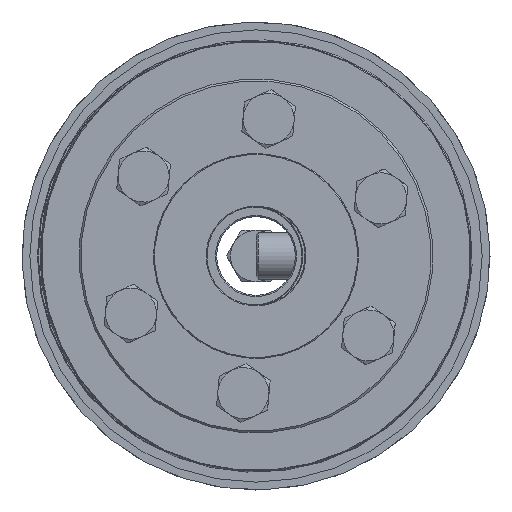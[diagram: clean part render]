
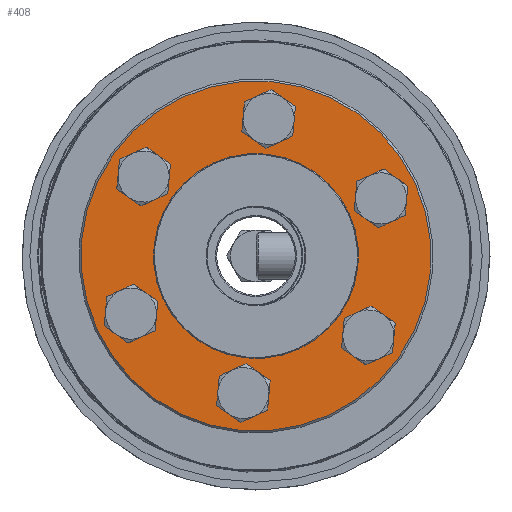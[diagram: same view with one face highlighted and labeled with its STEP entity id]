
A CAD part, left-side view. The second image highlights one B-rep face of the part: STEP entity #408.
In plain terms, the highlighted planar face has unit normal (-1, 0, 0).
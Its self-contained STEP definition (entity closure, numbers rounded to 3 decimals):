
#408 = ADVANCED_FACE( 'NONE', ( #624, #625, #626, #627, #628, #629, #630, #631 ), #632, .F. );
#624 = FACE_OUTER_BOUND( '', #1103, .T. );
#625 = FACE_BOUND( '', #1104, .T. );
#626 = FACE_BOUND( '', #1105, .T. );
#627 = FACE_BOUND( '', #1106, .T. );
#628 = FACE_BOUND( '', #1107, .T. );
#629 = FACE_BOUND( '', #1108, .T. );
#630 = FACE_BOUND( '', #1109, .T. );
#631 = FACE_BOUND( '', #1110, .T. );
#632 = PLANE( '', #1111 );
#1103 = EDGE_LOOP( '', ( #1672 ) );
#1104 = EDGE_LOOP( '', ( #1673 ) );
#1105 = EDGE_LOOP( '', ( #1674 ) );
#1106 = EDGE_LOOP( '', ( #1675 ) );
#1107 = EDGE_LOOP( '', ( #1676 ) );
#1108 = EDGE_LOOP( '', ( #1677 ) );
#1109 = EDGE_LOOP( '', ( #1678 ) );
#1110 = EDGE_LOOP( '', ( #1679 ) );
#1111 = AXIS2_PLACEMENT_3D( '', #1680, #1681, #1682 );
#1672 = ORIENTED_EDGE( '', *, *, #2489, .T. );
#1673 = ORIENTED_EDGE( '', *, *, #2490, .T. );
#1674 = ORIENTED_EDGE( '', *, *, #2491, .T. );
#1675 = ORIENTED_EDGE( '', *, *, #2492, .T. );
#1676 = ORIENTED_EDGE( '', *, *, #2493, .T. );
#1677 = ORIENTED_EDGE( '', *, *, #2485, .T. );
#1678 = ORIENTED_EDGE( '', *, *, #2494, .T. );
#1679 = ORIENTED_EDGE( '', *, *, #2495, .F. );
#1680 = CARTESIAN_POINT( '', ( 0., 26., 0. ) );
#1681 = DIRECTION( '', ( 1., 0., 0. ) );
#1682 = DIRECTION( '', ( 0., 1., 0. ) );
#2485 = EDGE_CURVE( 'NONE', #2736, #2736, #2737, .T. );
#2489 = EDGE_CURVE( 'NONE', #2744, #2744, #2745, .T. );
#2490 = EDGE_CURVE( 'NONE', #2746, #2746, #2747, .T. );
#2491 = EDGE_CURVE( 'NONE', #2748, #2748, #2749, .T. );
#2492 = EDGE_CURVE( 'NONE', #2750, #2750, #2751, .T. );
#2493 = EDGE_CURVE( 'NONE', #2752, #2752, #2753, .T. );
#2494 = EDGE_CURVE( 'NONE', #2754, #2754, #2755, .T. );
#2495 = EDGE_CURVE( 'NONE', #2756, #2756, #2757, .T. );
#2736 = VERTEX_POINT( '', #3182 );
#2737 = CIRCLE( '', #3183, 4.5 );
#2744 = VERTEX_POINT( '', #3190 );
#2745 = CIRCLE( '', #3191, 44.5 );
#2746 = VERTEX_POINT( '', #3192 );
#2747 = CIRCLE( '', #3193, 4.5 );
#2748 = VERTEX_POINT( '', #3194 );
#2749 = CIRCLE( '', #3195, 4.5 );
#2750 = VERTEX_POINT( '', #3196 );
#2751 = CIRCLE( '', #3197, 4.5 );
#2752 = VERTEX_POINT( '', #3198 );
#2753 = CIRCLE( '', #3199, 4.5 );
#2754 = VERTEX_POINT( '', #3200 );
#2755 = CIRCLE( '', #3201, 4.5 );
#2756 = VERTEX_POINT( '', #3202 );
#2757 = CIRCLE( '', #3203, 26. );
#3182 = CARTESIAN_POINT( '', ( 0., 17.5, -34.811 ) );
#3183 = AXIS2_PLACEMENT_3D( '', #4123, #4124, #4125 );
#3190 = CARTESIAN_POINT( '', ( 0., 0., -44.5 ) );
#3191 = AXIS2_PLACEMENT_3D( '', #4135, #4136, #4137 );
#3192 = CARTESIAN_POINT( '', ( 0., 17.5, 25.811 ) );
#3193 = AXIS2_PLACEMENT_3D( '', #4138, #4139, #4140 );
#3194 = CARTESIAN_POINT( '', ( 0., -17.5, 25.811 ) );
#3195 = AXIS2_PLACEMENT_3D( '', #4141, #4142, #4143 );
#3196 = CARTESIAN_POINT( '', ( 0., -35., -4.5 ) );
#3197 = AXIS2_PLACEMENT_3D( '', #4144, #4145, #4146 );
#3198 = CARTESIAN_POINT( '', ( 0., -17.5, -34.811 ) );
#3199 = AXIS2_PLACEMENT_3D( '', #4147, #4148, #4149 );
#3200 = CARTESIAN_POINT( '', ( 0., 35., -4.5 ) );
#3201 = AXIS2_PLACEMENT_3D( '', #4150, #4151, #4152 );
#3202 = CARTESIAN_POINT( '', ( 0., 0., 26. ) );
#3203 = AXIS2_PLACEMENT_3D( '', #4153, #4154, #4155 );
#4123 = CARTESIAN_POINT( '', ( 0., 17.5, -30.311 ) );
#4124 = DIRECTION( '', ( 1., 0., 0. ) );
#4125 = DIRECTION( '', ( 0., 0., -1. ) );
#4135 = CARTESIAN_POINT( '', ( 0., 0., 0. ) );
#4136 = DIRECTION( '', ( -1., 0., 0. ) );
#4137 = DIRECTION( '', ( 0., 0., -1. ) );
#4138 = CARTESIAN_POINT( '', ( 0., 17.5, 30.311 ) );
#4139 = DIRECTION( '', ( 1., 0., 0. ) );
#4140 = DIRECTION( '', ( 0., 0., -1. ) );
#4141 = CARTESIAN_POINT( '', ( 0., -17.5, 30.311 ) );
#4142 = DIRECTION( '', ( 1., 0., 0. ) );
#4143 = DIRECTION( '', ( 0., 0., -1. ) );
#4144 = CARTESIAN_POINT( '', ( 0., -35., 0. ) );
#4145 = DIRECTION( '', ( 1., 0., 0. ) );
#4146 = DIRECTION( '', ( 0., 0., -1. ) );
#4147 = CARTESIAN_POINT( '', ( 0., -17.5, -30.311 ) );
#4148 = DIRECTION( '', ( 1., 0., 0. ) );
#4149 = DIRECTION( '', ( 0., 0., -1. ) );
#4150 = CARTESIAN_POINT( '', ( 0., 35., 0. ) );
#4151 = DIRECTION( '', ( 1., 0., 0. ) );
#4152 = DIRECTION( '', ( 0., 0., -1. ) );
#4153 = CARTESIAN_POINT( '', ( 0., 0., 0. ) );
#4154 = DIRECTION( '', ( -1., 0., 0. ) );
#4155 = DIRECTION( '', ( 0., 0., 1. ) );
